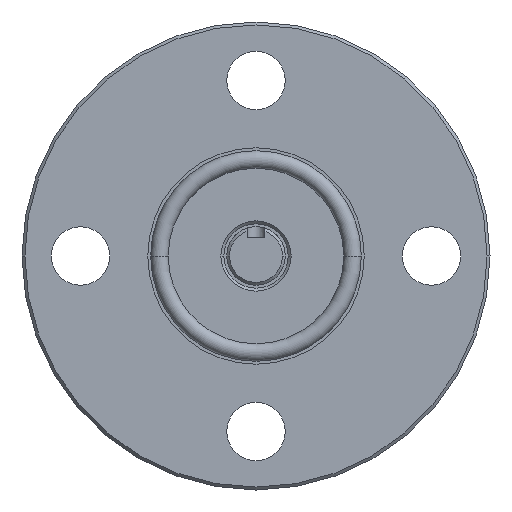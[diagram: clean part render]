
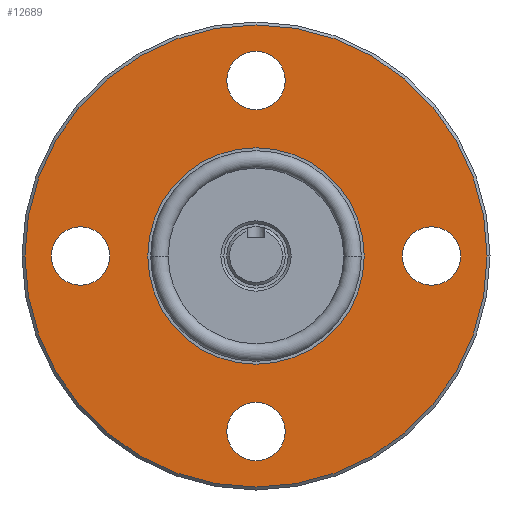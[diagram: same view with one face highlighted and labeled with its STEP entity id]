
A CAD part, left-side view. The second image highlights one B-rep face of the part: STEP entity #12689.
In plain terms, the highlighted planar face has unit normal (-1, 0, 0).
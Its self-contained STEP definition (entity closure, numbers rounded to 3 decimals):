
#4112 = CARTESIAN_POINT ( 'NONE',  ( 25., -5., -30. ) ) ;
#4113 = DIRECTION ( 'NONE',  ( 0., 1., 0. ) ) ;
#4114 = DIRECTION ( 'NONE',  ( -1., 0., 0. ) ) ;
#4115 = CARTESIAN_POINT ( 'NONE',  ( 25., -30., 0. ) ) ;
#4116 = AXIS2_PLACEMENT_3D ( 'NONE', #4115, #4114, #4113 ) ;
#4117 = CIRCLE ( 'NONE', #4116, 5. ) ;
#4123 = CARTESIAN_POINT ( 'NONE',  ( 25., -35., 0. ) ) ;
#4250 = CARTESIAN_POINT ( 'NONE',  ( 25., 30., 0. ) ) ;
#4330 = CARTESIAN_POINT ( 'NONE',  ( 25., 35., 0. ) ) ;
#4333 = DIRECTION ( 'NONE',  ( 0., -1., 0. ) ) ;
#4335 = DIRECTION ( 'NONE',  ( -1., 0., 0. ) ) ;
#4336 = AXIS2_PLACEMENT_3D ( 'NONE', #4250, #4335, #4333 ) ;
#4338 = CIRCLE ( 'NONE', #4336, 5. ) ;
#4480 = CARTESIAN_POINT ( 'NONE',  ( 25., 25., 0. ) ) ;
#4488 = CARTESIAN_POINT ( 'NONE',  ( 25., 5., -30. ) ) ;
#4498 = DIRECTION ( 'NONE',  ( 0., 0., 1. ) ) ;
#4500 = DIRECTION ( 'NONE',  ( -1., 0., 0. ) ) ;
#4502 = CARTESIAN_POINT ( 'NONE',  ( 25., 0., -30. ) ) ;
#4504 = AXIS2_PLACEMENT_3D ( 'NONE', #4502, #4500, #4498 ) ;
#4506 = CIRCLE ( 'NONE', #4504, 5. ) ;
#5864 = VERTEX_POINT ( 'NONE', #16374 ) ;
#5866 = VERTEX_POINT ( 'NONE', #16373 ) ;
#5872 = EDGE_CURVE ( 'NONE', #5880, #5866, #16686, .T. ) ;
#5880 = VERTEX_POINT ( 'NONE', #16674 ) ;
#12480 = EDGE_CURVE ( 'NONE', #12481, #12482, #27405, .T. ) ;
#12481 = VERTEX_POINT ( 'NONE', #27397 ) ;
#12482 = VERTEX_POINT ( 'NONE', #27395 ) ;
#12689 = ADVANCED_FACE ( 'NONE', ( #40045, #40044, #40043, #40042, #40041, #40040 ), #40039, .T. ) ;
#12690 = EDGE_LOOP ( 'NONE', ( #12691, #12749 ) ) ;
#12691 = ORIENTED_EDGE ( 'NONE', *, *, #12692, .T. ) ;
#12692 = EDGE_CURVE ( 'NONE', #12482, #12481, #40034, .T. ) ;
#12736 = ORIENTED_EDGE ( 'NONE', *, *, #19166, .F. ) ;
#12737 = EDGE_LOOP ( 'NONE', ( #12738, #12740 ) ) ;
#12738 = ORIENTED_EDGE ( 'NONE', *, *, #12739, .F. ) ;
#12739 = EDGE_CURVE ( 'NONE', #19167, #19211, #40112, .T. ) ;
#12740 = ORIENTED_EDGE ( 'NONE', *, *, #19207, .F. ) ;
#12741 = EDGE_LOOP ( 'NONE', ( #12742, #12744 ) ) ;
#12742 = ORIENTED_EDGE ( 'NONE', *, *, #12743, .F. ) ;
#12743 = EDGE_CURVE ( 'NONE', #19198, #19195, #40167, .T. ) ;
#12744 = ORIENTED_EDGE ( 'NONE', *, *, #19193, .F. ) ;
#12749 = ORIENTED_EDGE ( 'NONE', *, *, #12480, .T. ) ;
#12750 = EDGE_LOOP ( 'NONE', ( #12751, #12753 ) ) ;
#12751 = ORIENTED_EDGE ( 'NONE', *, *, #12752, .F. ) ;
#12752 = EDGE_CURVE ( 'NONE', #5866, #5880, #40160, .T. ) ;
#12753 = ORIENTED_EDGE ( 'NONE', *, *, #5872, .F. ) ;
#12754 = EDGE_LOOP ( 'NONE', ( #12755, #12757 ) ) ;
#12755 = ORIENTED_EDGE ( 'NONE', *, *, #12756, .F. ) ;
#12756 = EDGE_CURVE ( 'NONE', #25379, #5864, #40151, .T. ) ;
#12757 = ORIENTED_EDGE ( 'NONE', *, *, #30024, .F. ) ;
#12758 = EDGE_LOOP ( 'NONE', ( #12759, #12736 ) ) ;
#12759 = ORIENTED_EDGE ( 'NONE', *, *, #12760, .F. ) ;
#12760 = EDGE_CURVE ( 'NONE', #19160, #19589, #40146, .T. ) ;
#16373 = CARTESIAN_POINT ( 'NONE',  ( 25., -18.5, 0. ) ) ;
#16374 = CARTESIAN_POINT ( 'NONE',  ( 25., 5., 30. ) ) ;
#16674 = CARTESIAN_POINT ( 'NONE',  ( 25., 18.5, 0. ) ) ;
#16682 = DIRECTION ( 'NONE',  ( 0., -1., 0. ) ) ;
#16683 = DIRECTION ( 'NONE',  ( -1., 0., 0. ) ) ;
#16684 = CARTESIAN_POINT ( 'NONE',  ( 25., 0., 0. ) ) ;
#16685 = AXIS2_PLACEMENT_3D ( 'NONE', #16684, #16683, #16682 ) ;
#16686 = CIRCLE ( 'NONE', #16685, 18.5 ) ;
#19160 = VERTEX_POINT ( 'NONE', #4123 ) ;
#19166 = EDGE_CURVE ( 'NONE', #19589, #19160, #4117, .T. ) ;
#19167 = VERTEX_POINT ( 'NONE', #4112 ) ;
#19193 = EDGE_CURVE ( 'NONE', #19195, #19198, #4338, .T. ) ;
#19195 = VERTEX_POINT ( 'NONE', #4330 ) ;
#19198 = VERTEX_POINT ( 'NONE', #4480 ) ;
#19207 = EDGE_CURVE ( 'NONE', #19211, #19167, #4506, .T. ) ;
#19211 = VERTEX_POINT ( 'NONE', #4488 ) ;
#19589 = VERTEX_POINT ( 'NONE', #27526 ) ;
#25379 = VERTEX_POINT ( 'NONE', #31376 ) ;
#27395 = CARTESIAN_POINT ( 'NONE',  ( 25., 39.5, 0. ) ) ;
#27397 = CARTESIAN_POINT ( 'NONE',  ( 25., -39.5, 0. ) ) ;
#27399 = DIRECTION ( 'NONE',  ( 0., -1., 0. ) ) ;
#27401 = DIRECTION ( 'NONE',  ( -1., 0., 0. ) ) ;
#27403 = AXIS2_PLACEMENT_3D ( 'NONE', #27418, #27401, #27399 ) ;
#27405 = CIRCLE ( 'NONE', #27403, 39.5 ) ;
#27418 = CARTESIAN_POINT ( 'NONE',  ( 25., 0., 0. ) ) ;
#27526 = CARTESIAN_POINT ( 'NONE',  ( 25., -25., 0. ) ) ;
#30024 = EDGE_CURVE ( 'NONE', #5864, #25379, #31621, .T. ) ;
#31376 = CARTESIAN_POINT ( 'NONE',  ( 25., -5., 30. ) ) ;
#31586 = CARTESIAN_POINT ( 'NONE',  ( 25., 0., 30. ) ) ;
#31618 = DIRECTION ( 'NONE',  ( 0., 0., -1. ) ) ;
#31619 = DIRECTION ( 'NONE',  ( -1., 0., 0. ) ) ;
#31620 = AXIS2_PLACEMENT_3D ( 'NONE', #31586, #31619, #31618 ) ;
#31621 = CIRCLE ( 'NONE', #31620, 5. ) ;
#40030 = DIRECTION ( 'NONE',  ( 0., -1., 0. ) ) ;
#40031 = DIRECTION ( 'NONE',  ( -1., 0., 0. ) ) ;
#40032 = CARTESIAN_POINT ( 'NONE',  ( 25., 0., 0. ) ) ;
#40033 = AXIS2_PLACEMENT_3D ( 'NONE', #40032, #40031, #40030 ) ;
#40034 = CIRCLE ( 'NONE', #40033, 39.5 ) ;
#40035 = DIRECTION ( 'NONE',  ( 0., -1., 0. ) ) ;
#40036 = DIRECTION ( 'NONE',  ( -1., 0., 0. ) ) ;
#40037 = CARTESIAN_POINT ( 'NONE',  ( 25., 5., 0. ) ) ;
#40038 = AXIS2_PLACEMENT_3D ( 'NONE', #40037, #40036, #40035 ) ;
#40039 = PLANE ( 'NONE',  #40038 ) ;
#40040 = FACE_BOUND ( 'NONE', #12741, .T. ) ;
#40041 = FACE_BOUND ( 'NONE', #12737, .T. ) ;
#40042 = FACE_BOUND ( 'NONE', #12758, .T. ) ;
#40043 = FACE_BOUND ( 'NONE', #12754, .T. ) ;
#40044 = FACE_BOUND ( 'NONE', #12750, .T. ) ;
#40045 = FACE_OUTER_BOUND ( 'NONE', #12690, .T. ) ;
#40108 = DIRECTION ( 'NONE',  ( 0., 0., 1. ) ) ;
#40109 = DIRECTION ( 'NONE',  ( -1., 0., 0. ) ) ;
#40110 = CARTESIAN_POINT ( 'NONE',  ( 25., 0., -30. ) ) ;
#40111 = AXIS2_PLACEMENT_3D ( 'NONE', #40110, #40109, #40108 ) ;
#40112 = CIRCLE ( 'NONE', #40111, 5. ) ;
#40142 = DIRECTION ( 'NONE',  ( 0., 1., 0. ) ) ;
#40143 = DIRECTION ( 'NONE',  ( -1., 0., 0. ) ) ;
#40144 = CARTESIAN_POINT ( 'NONE',  ( 25., -30., 0. ) ) ;
#40145 = AXIS2_PLACEMENT_3D ( 'NONE', #40144, #40143, #40142 ) ;
#40146 = CIRCLE ( 'NONE', #40145, 5. ) ;
#40147 = DIRECTION ( 'NONE',  ( 0., 0., -1. ) ) ;
#40148 = DIRECTION ( 'NONE',  ( -1., 0., 0. ) ) ;
#40149 = CARTESIAN_POINT ( 'NONE',  ( 25., 0., 30. ) ) ;
#40150 = AXIS2_PLACEMENT_3D ( 'NONE', #40149, #40148, #40147 ) ;
#40151 = CIRCLE ( 'NONE', #40150, 5. ) ;
#40152 = DIRECTION ( 'NONE',  ( 0., -1., 0. ) ) ;
#40153 = DIRECTION ( 'NONE',  ( -1., 0., 0. ) ) ;
#40154 = CARTESIAN_POINT ( 'NONE',  ( 25., 0., 0. ) ) ;
#40155 = AXIS2_PLACEMENT_3D ( 'NONE', #40154, #40153, #40152 ) ;
#40160 = CIRCLE ( 'NONE', #40155, 18.5 ) ;
#40163 = DIRECTION ( 'NONE',  ( 0., -1., 0. ) ) ;
#40164 = DIRECTION ( 'NONE',  ( -1., 0., 0. ) ) ;
#40165 = CARTESIAN_POINT ( 'NONE',  ( 25., 30., 0. ) ) ;
#40166 = AXIS2_PLACEMENT_3D ( 'NONE', #40165, #40164, #40163 ) ;
#40167 = CIRCLE ( 'NONE', #40166, 5. ) ;
